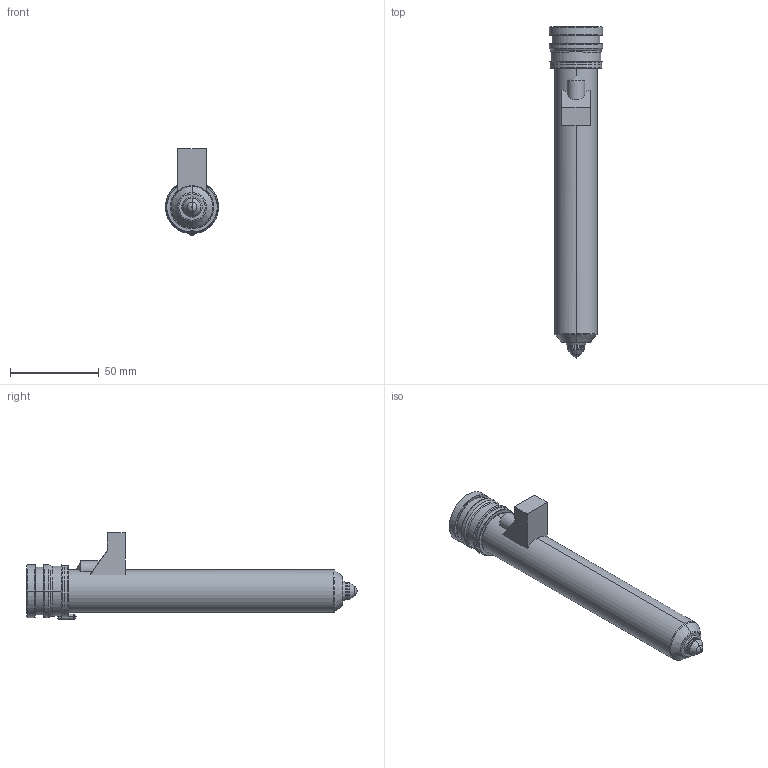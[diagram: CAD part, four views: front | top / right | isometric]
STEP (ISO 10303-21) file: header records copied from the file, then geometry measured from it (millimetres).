
FILE_DESCRIPTION((''),'2;1');
FILE_NAME('MPN-10-29-VX10-166-M','2026-02-05T12:57:36',('UPTIO'),('Thermoplay S.p.A.'),'CREO PARAMETRIC BY PTC INC, 2023494','CREO PARAMETRIC BY PTC INC, 2023494','');
FILE_SCHEMA(('CONFIG_CONTROL_DESIGN','SHAPE_APPEARANCE_LAYERS_GROUPS'));
Length unit declared in the file: millimetre
Products named in the file (1): MPN-10-29-VX10-166-M
Bounding box: 30 x 187.5 x 49 mm (x, y, z)
Volume: 57978.5 mm3; surface area: 59741.8 mm2
Topology: 3 solids, 5 shells, 547 faces, 1387 edges, 846 vertices
Faces by surface type: cylinder 179, plane 147, torus 71, bspline 70, cone 68, sphere 8, extrusion 4
Entity records: 28729 total; most frequent: CARTESIAN_POINT 12764, ORIENTED_EDGE 2760, DIRECTION 2638, EDGE_CURVE 1380, AXIS2_PLACEMENT_3D 1050, VERTEX_POINT 846, EDGE_LOOP 576, CIRCLE 576
